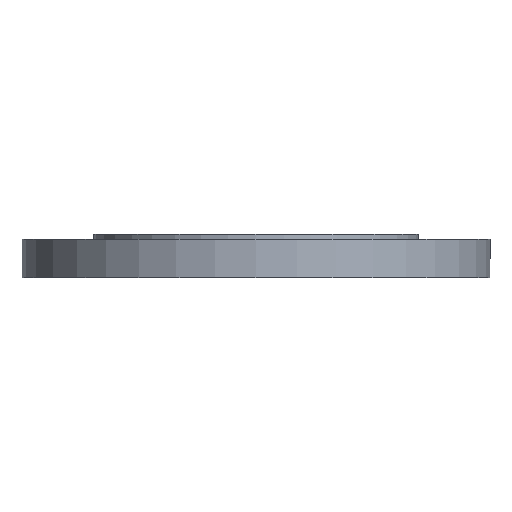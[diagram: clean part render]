
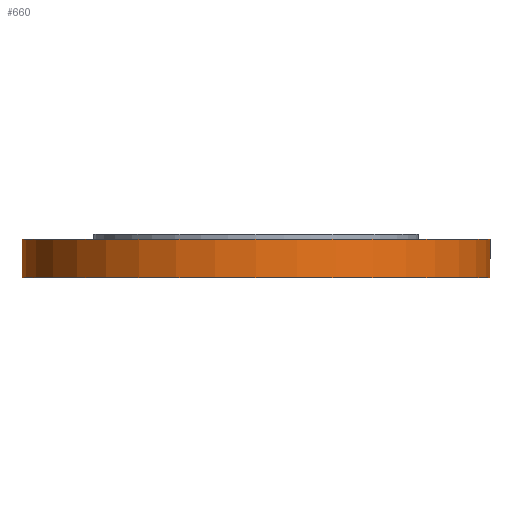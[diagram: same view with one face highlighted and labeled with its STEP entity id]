
A CAD part, front view. The second image highlights one B-rep face of the part: STEP entity #660.
In plain terms, the highlighted cylindrical face has radius 225 mm (diameter 450 mm), a partial arc.
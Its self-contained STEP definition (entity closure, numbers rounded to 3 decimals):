
#47 = VECTOR ( 'NONE', #889, 1000. ) ;
#83 = DIRECTION ( 'NONE',  ( 0., 0., 1. ) ) ;
#84 = CARTESIAN_POINT ( 'NONE',  ( 225., 0., -115. ) ) ;
#85 = LINE ( 'NONE', #84, #305 ) ;
#101 = EDGE_CURVE ( 'NONE', #835, #618, #879, .T. ) ;
#127 = DIRECTION ( 'NONE',  ( -1., 0., 0. ) ) ;
#129 = DIRECTION ( 'NONE',  ( 0., 0., -1. ) ) ;
#130 = CARTESIAN_POINT ( 'NONE',  ( 0., 0., -42. ) ) ;
#166 = CARTESIAN_POINT ( 'NONE',  ( -225., 0., -42. ) ) ;
#222 = CARTESIAN_POINT ( 'NONE',  ( 225., 0., -5. ) ) ;
#305 = VECTOR ( 'NONE', #83, 1000. ) ;
#404 = DIRECTION ( 'NONE',  ( 1., 0., 0. ) ) ;
#405 = DIRECTION ( 'NONE',  ( 0., 0., 1. ) ) ;
#406 = CARTESIAN_POINT ( 'NONE',  ( 0., 0., -115. ) ) ;
#407 = CYLINDRICAL_SURFACE ( 'NONE', #1062, 225. ) ;
#408 = FACE_OUTER_BOUND ( 'NONE', #821, .T. ) ;
#468 = CARTESIAN_POINT ( 'NONE',  ( -225., 0., -5. ) ) ;
#487 = EDGE_CURVE ( 'NONE', #775, #618, #494, .T. ) ;
#494 = CIRCLE ( 'NONE', #706, 225. ) ;
#504 = CARTESIAN_POINT ( 'NONE',  ( 225., 0., -42. ) ) ;
#536 = CARTESIAN_POINT ( 'NONE',  ( 0., 0., -5. ) ) ;
#563 = DIRECTION ( 'NONE',  ( -1., 0., 0. ) ) ;
#594 = VERTEX_POINT ( 'NONE', #504 ) ;
#618 = VERTEX_POINT ( 'NONE', #468 ) ;
#660 = ADVANCED_FACE ( 'NONE', ( #408 ), #407, .T. ) ;
#706 = AXIS2_PLACEMENT_3D ( 'NONE', #536, #885, #563 ) ;
#775 = VERTEX_POINT ( 'NONE', #222 ) ;
#776 = CIRCLE ( 'NONE', #1002, 225. ) ;
#821 = EDGE_LOOP ( 'NONE', ( #1109, #1110, #1112, #1114 ) ) ;
#835 = VERTEX_POINT ( 'NONE', #166 ) ;
#879 = LINE ( 'NONE', #880, #47 ) ;
#880 = CARTESIAN_POINT ( 'NONE',  ( -225., 0., -115. ) ) ;
#885 = DIRECTION ( 'NONE',  ( 0., 0., -1. ) ) ;
#889 = DIRECTION ( 'NONE',  ( 0., 0., 1. ) ) ;
#909 = EDGE_CURVE ( 'NONE', #594, #835, #776, .T. ) ;
#953 = EDGE_CURVE ( 'NONE', #594, #775, #85, .T. ) ;
#1002 = AXIS2_PLACEMENT_3D ( 'NONE', #130, #129, #127 ) ;
#1062 = AXIS2_PLACEMENT_3D ( 'NONE', #406, #405, #404 ) ;
#1109 = ORIENTED_EDGE ( 'NONE', *, *, #101, .F. ) ;
#1110 = ORIENTED_EDGE ( 'NONE', *, *, #909, .F. ) ;
#1112 = ORIENTED_EDGE ( 'NONE', *, *, #953, .T. ) ;
#1114 = ORIENTED_EDGE ( 'NONE', *, *, #487, .T. ) ;
